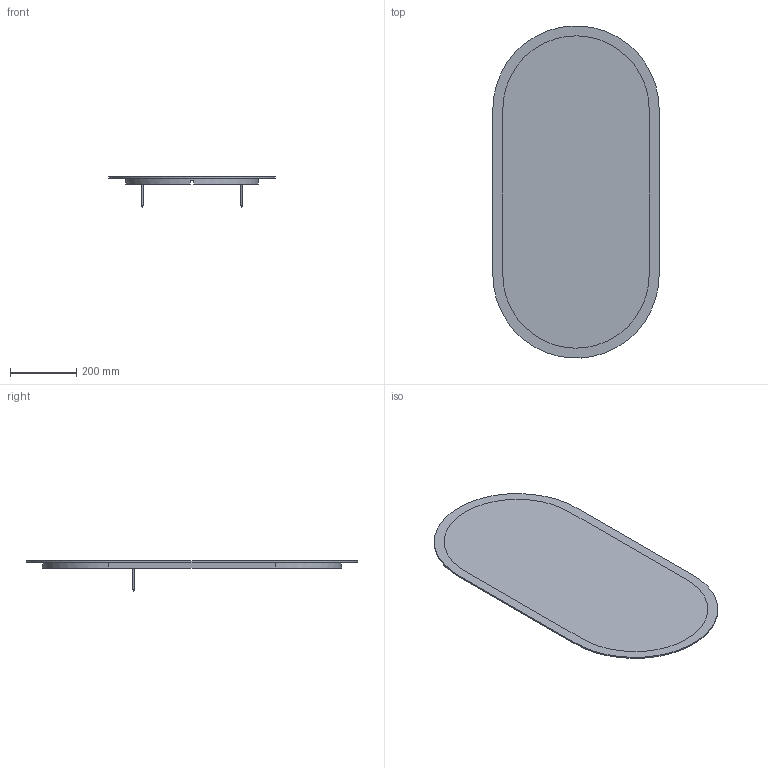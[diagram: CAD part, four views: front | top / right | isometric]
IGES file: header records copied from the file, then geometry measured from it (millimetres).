
Global section: file name: 3D Dosyası,; native system: Autodesk Inventor 2024; preprocessor: unknown; author: pc11; date: 20250710.103158; units: millimetre
Bounding box: 500 x 999.09 x 92 mm (x, y, z)
Volume: 5580392.2 mm3; surface area: 1418672.2 mm2
Topology: 6 solids, 6 shells, 222 faces, 598 edges, 382 vertices
Faces by surface type: bspline 222
